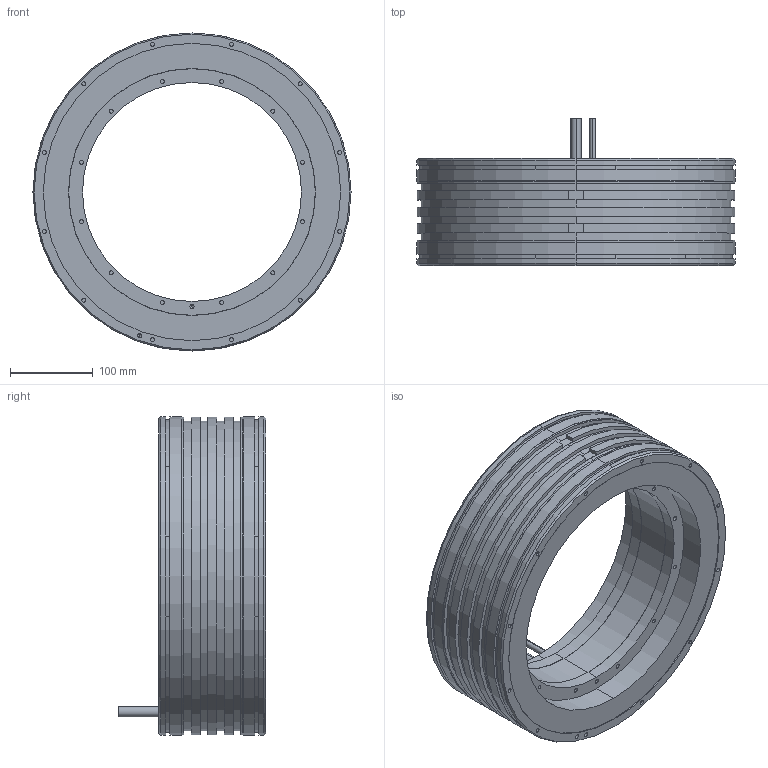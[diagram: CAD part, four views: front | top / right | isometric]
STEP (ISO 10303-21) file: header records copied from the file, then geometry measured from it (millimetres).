
FILE_DESCRIPTION (( 'STEP AP203' ), '1' );
FILE_NAME ('TM-2-A7.STEP', '2020-10-20T05:55:27', ( '' ), ( '' ), 'SwSTEP 2.0', 'SolidWorks 2015', '' );
FILE_SCHEMA (( 'CONFIG_CONTROL_DESIGN' ));
Length unit declared in the file: millimetre
Products named in the file (3): TM-2-A7; TM-2-AX_rotor_TM-2-A7_rotor; TM-2-AX_stator_TM-2-A7_stator
Assembly tree (2 placements, depth 2):
  TM-2-A7
    TM-2-AX_stator_TM-2-A7_stator
    TM-2-AX_rotor_TM-2-A7_rotor
Bounding box: 385 x 179 x 385 mm (x, y, z)
Volume: 6710970.1 mm3; surface area: 599882 mm2
Topology: 2 solids, 2 shells, 246 faces, 514 edges, 328 vertices
Faces by surface type: cylinder 151, plane 79, cone 16
Entity records: 6925 total; most frequent: DIRECTION 1314, CARTESIAN_POINT 1085, ORIENTED_EDGE 1012, AXIS2_PLACEMENT_3D 557, EDGE_CURVE 506, VERTEX_POINT 328, EDGE_LOOP 314, CIRCLE 306
